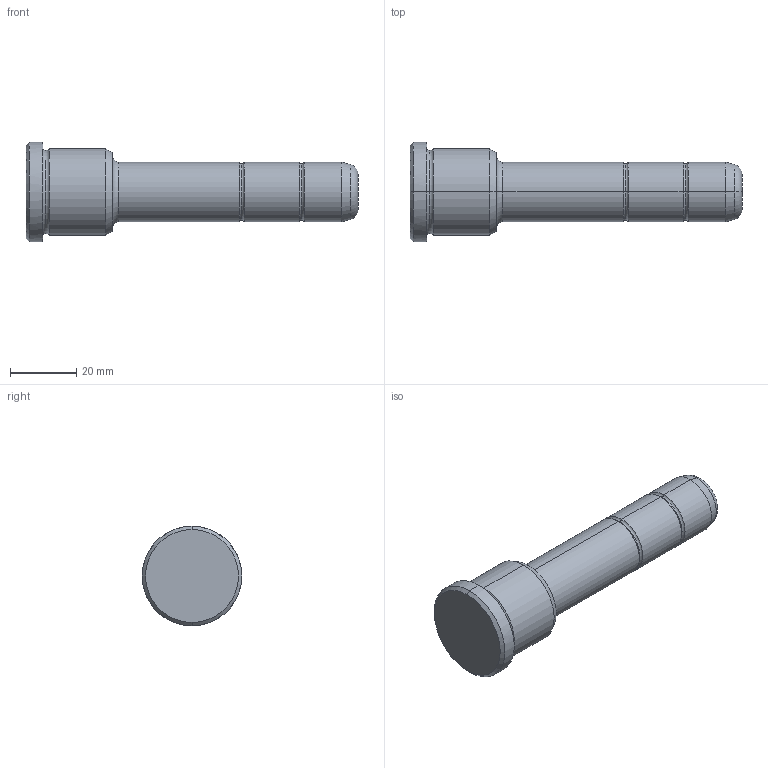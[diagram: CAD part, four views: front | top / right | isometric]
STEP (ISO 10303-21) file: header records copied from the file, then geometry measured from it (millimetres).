
FILE_DESCRIPTION(('CATIA V5 STEP Exchange'),'2;1');
FILE_NAME('C:\Users\Utente\Desktop\IO LAVORO\3D X SITO CF\X SITO\PLASTICA\351\351-18X26X100.stp','2021-08-19T12:45:46+00:00',('none'),('none'),'CATIA Version 5 Release 20 GA (IN-10)','CATIA V5 STEP AP203','none');
FILE_SCHEMA(('CONFIG_CONTROL_DESIGN'));
Length unit declared in the file: millimetre
Products named in the file (1): 351-18X26X100
Bounding box: 100 x 30 x 30 mm (x, y, z)
Volume: 33082.3 mm3; surface area: 7554.5 mm2
Topology: 1 solids, 1 shells, 36 faces, 102 edges, 70 vertices
Faces by surface type: torus 16, cylinder 10, cone 6, plane 4
Entity records: 1292 total; most frequent: CARTESIAN_POINT 321, ORIENTED_EDGE 204, DIRECTION 166, AXIS2_PLACEMENT_3D 115, EDGE_CURVE 102, CIRCLE 78, VERTEX_POINT 70, EDGE_LOOP 38
